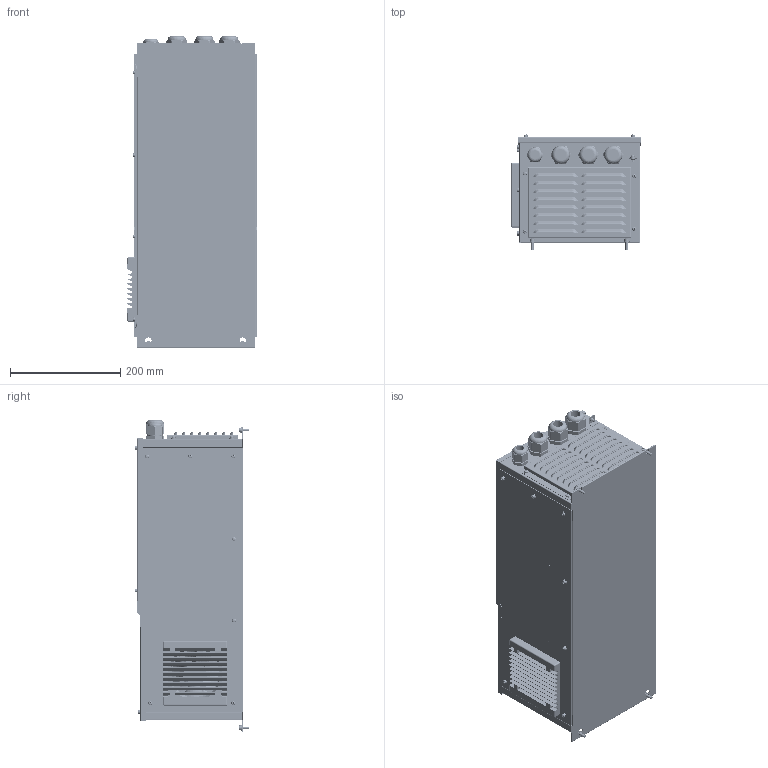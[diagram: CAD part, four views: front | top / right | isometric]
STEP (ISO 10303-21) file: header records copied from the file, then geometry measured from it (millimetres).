
FILE_DESCRIPTION(/* description */ (''),/* implementation_level */ '2;1');
FILE_NAME(/* name */ '\\ad.baltenergomash.ru\office\БЭМ\Personal\Абрамов\!ПКИ\Новая папка\VEDA-T3-11G_3D_адаптированная.stp',/* time_stamp */ '2023-06-26T07:12:42+03:00',/* author */ ('a.abramov'),/* organization */ (''),/* preprocessor_version */ 'ST-DEVELOPER v18.1',/* originating_system */ 'Autodesk Inventor 2022',/* authorisation */ '');
FILE_SCHEMA (('AUTOMOTIVE_DESIGN { 1 0 10303 214 3 1 1 }'));
Products named in the file (62): 000-veda-t3-011g-b54_asm; AC300-T3-5R5G-0000_SKEL0001; VEDA-T3-011G-B54-P_ASM; VEDA-T3-011G-B54-P001_ASM; VEDA-T3-011G-B54-P016_ASM; VEDA-T3-011G-B54-P016P; TPS-4-8; VEDA-T3-011G-B54-P018_ASM; VEDA-T3-011G-B54-P018P; S-M4-1; VEDA-T3-011G-B54-P010_ASM; VEDA-T3-011G-B54-P010P; Деталь20; VEDA-T3-011G-B54-P003_ASM; VEDA-T3-011G-B54-P017_ASM; VEDA-T3-011G-B54-P017P; SO-M4-3; BSO-3_5M3-18; VEDA-T3-011G-B54-P002; VEDA-T3-011G-B54-P015_ASM; VEDA-T3-011G-B54-P015P; VEDA-T3-011G-B54-P004; VEDA-T3-011G-B54-P005_ASM; VEDA-T3-011G-B54-P006_ASM; VEDA-T3-011G-B54-P006P; VEDA-T3-011G-B54-P007; VEDA-T3-011G-B54-P009; VEDA-T3-011G-B54-P008; VEDA-T3-011G-B54-P005SY; VEDA-T3-011G-B54-P011_ASM; VEDA-T3-011G-B54-P011P; VEDA-T3-011G-B54-P012_ASM; VEDA-T3-011G-B54-P012P; S-M5-1; VEDA-T3-011G-B54-D_ASM; VEDA-T3-011G-B54-F001; VEDA-T3-011G-B54-N001; PG-16B; F09238Z48D024_SM100-1390010020; ZL-9238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
Assembly tree (130 placements, depth 5):
  000-veda-t3-011g-b54_asm
    AC300-T3-5R5G-0000_SKEL0001
    VEDA-T3-011G-B54-P_ASM
      VEDA-T3-011G-B54-P001_ASM
        VEDA-T3-011G-B54-P016_ASM
          VEDA-T3-011G-B54-P016P
          SO-M4-3  x12
          S-M4-1  x4
          TPS-4-8  x4
        VEDA-T3-011G-B54-P002
        VEDA-T3-011G-B54-P018_ASM
          VEDA-T3-011G-B54-P018P
          S-M4-1
        VEDA-T3-011G-B54-P010_ASM  x2
          VEDA-T3-011G-B54-P010P
          S-M5-1
        Деталь20
      VEDA-T3-011G-B54-P003_ASM
        VEDA-T3-011G-B54-P017_ASM
          VEDA-T3-011G-B54-P017P
          SO-M4-3
          BSO-3_5M3-18  x5
        VEDA-T3-011G-B54-P002
        VEDA-T3-011G-B54-P015_ASM  x2
          VEDA-T3-011G-B54-P015P
        VEDA-T3-011G-B54-P004
      VEDA-T3-011G-B54-P005_ASM
        VEDA-T3-011G-B54-P006_ASM
          VEDA-T3-011G-B54-P006P
        VEDA-T3-011G-B54-P007
        VEDA-T3-011G-B54-P009
        VEDA-T3-011G-B54-P008  x2
        VEDA-T3-011G-B54-P005SY
      VEDA-T3-011G-B54-P011_ASM
        VEDA-T3-011G-B54-P011P
      VEDA-T3-011G-B54-P012_ASM
        VEDA-T3-011G-B54-P012P
        S-M5-1  x3
    VEDA-T3-011G-B54-D_ASM
      VEDA-T3-011G-B54-F001
      VEDA-T3-011G-B54-N001
      PG-21B  x3
      PG-16B
      F09238Z48D024_SM100-1390010020
      ZL-9238
      P24W120-A1_1-1420050089_ASM
        P24W120-A1_1
        ELT-VH-4P-3_96_ASM
          ELT-VH-4A-3_96
          ELT-VH-4Y-3_96
        ELT-VH-2P-3_96_ASM
          ELT-VH-2A-3_96
          ELT-VH-2Y-3_96
        ELT-XHS-2P-2_5_ASM  x3
          ELT-XHS-2A-2_5
          ELT-XHS-2Y-2_5
        ELT-XHS-6P-2_5_ASM
          ELT-XHS-6A-2_5
          ELT-XHS-6Y-2_5
    VEDA-T3-011G-B54-S_ASM
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Bounding box: 235 x 207.89 x 565.19 mm (x, y, z)
Volume: 1433214.1 mm3; surface area: 1618734.6 mm2
Topology: 126 solids, 170 shells, 6953 faces, 17709 edges, 11354 vertices
Faces by surface type: plane 5024, cylinder 1005, bspline 485, torus 199, cone 198, sphere 42
Full cylindrical faces by diameter (mm): 0.445 x1, 0.572 x3, 0.762 x5, 0.8 x36, 0.889 x3, 0.9 x1, 1.27 x2, 1.397 x1, 2 x2, 2.5 x5, 3 x10, 3.3 x13, 3.5 x22, 3.6 x5, 3.716 x1, 4 x43, 4.2 x4, 4.3 x8, 4.39 x5, 4.5 x16, 4.72 x8, 4.99 x10, 5 x24, 5.23 x5, 5.32 x4, 5.38 x5, 5.39 x15, 5.4 x10, 5.5 x7, 5.9 x5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
Entity records: 141973 total; most frequent: CARTESIAN_POINT 39980, ORIENTED_EDGE 19404, DIRECTION 18433, EDGE_CURVE 9706, LINE 6943, VECTOR 6943, VERTEX_POINT 6092, AXIS2_PLACEMENT_3D 5745
